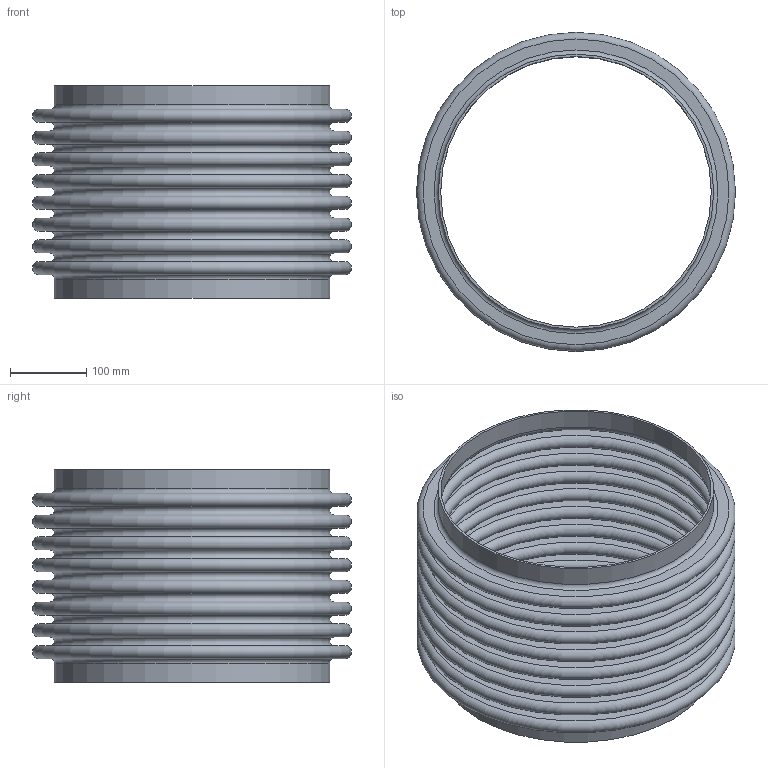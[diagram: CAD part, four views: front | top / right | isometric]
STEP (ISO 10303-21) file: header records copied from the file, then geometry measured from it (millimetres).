
FILE_DESCRIPTION(/* description */ ('STOCK BELLOWS: U.S-14-8-300S, 14.000 I.D., 16.500 O.D., 2 PLY, 16 GA (0.060 THICK), 8 CONS., 1.125 PITCH, 1.000 TANGENT. '),/* implementation_level */ '2;1');
FILE_NAME(/* name */ 'STOCK BELLOW - US-14-8-300S.stp',/* time_stamp */ '2026-07-21T13:30:05-05:00',/* author */ ('KennethB'),/* organization */ (''),/* preprocessor_version */ 'ST-DEVELOPER v20.1',/* originating_system */ 'Autodesk Inventor 2026',/* authorisation */ '');
FILE_SCHEMA (('AUTOMOTIVE_DESIGN { 1 0 10303 214 3 1 1 }'));
Length unit declared in the file: inch
Products named in the file (1): STOCK BELLOW - US-14-8-300S
Bounding box: 419.1 x 419.1 x 279.4 mm (x, y, z)
Volume: 2361775.5 mm3; surface area: 1570327 mm2
Topology: 3 solids, 3 shells, 76 faces, 114 edges, 77 vertices
Faces by surface type: plane 38, torus 34, cylinder 4
Full cylindrical faces by diameter (mm): 355.6 x2, 361.696 x2
Entity records: 1814 total; most frequent: DIRECTION 378, CARTESIAN_POINT 268, ORIENTED_EDGE 228, AXIS2_PLACEMENT_3D 187, EDGE_LOOP 114, EDGE_CURVE 114, CIRCLE 110, FACE_OUTER_BOUND 76
